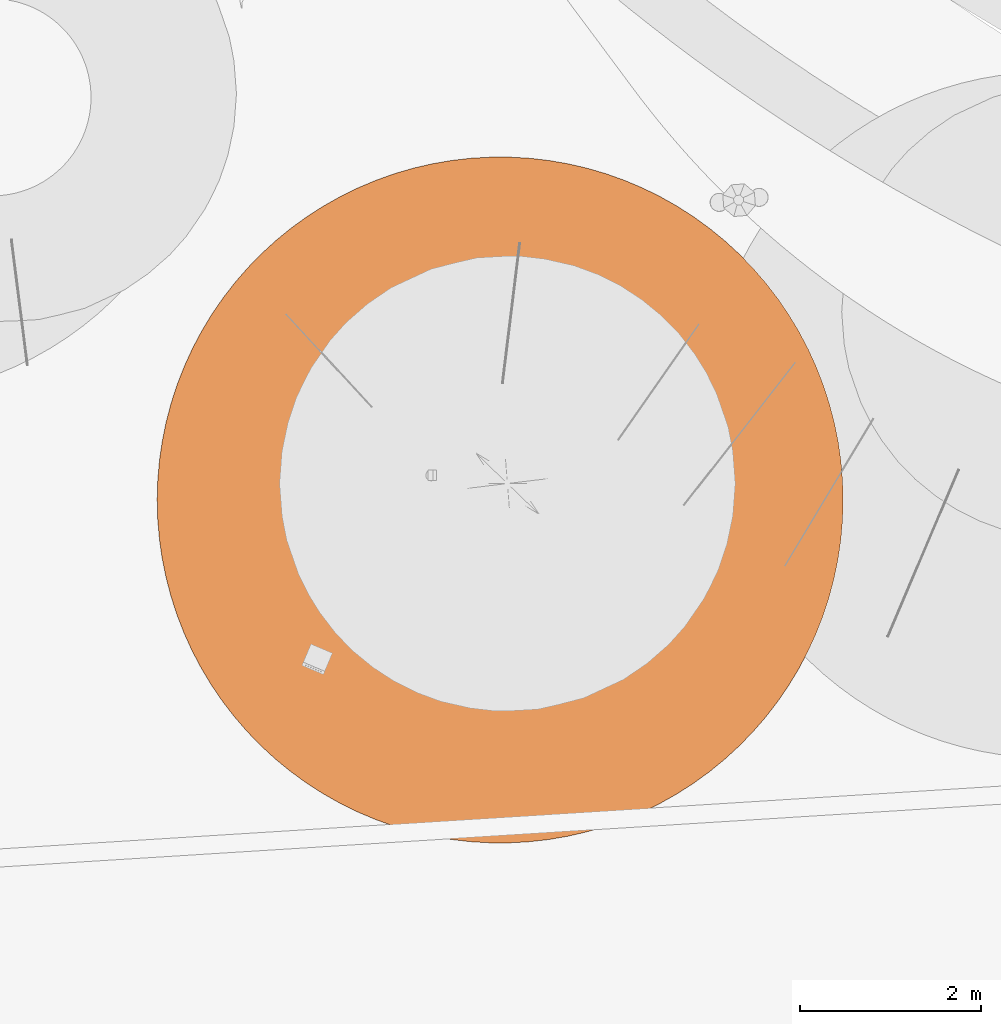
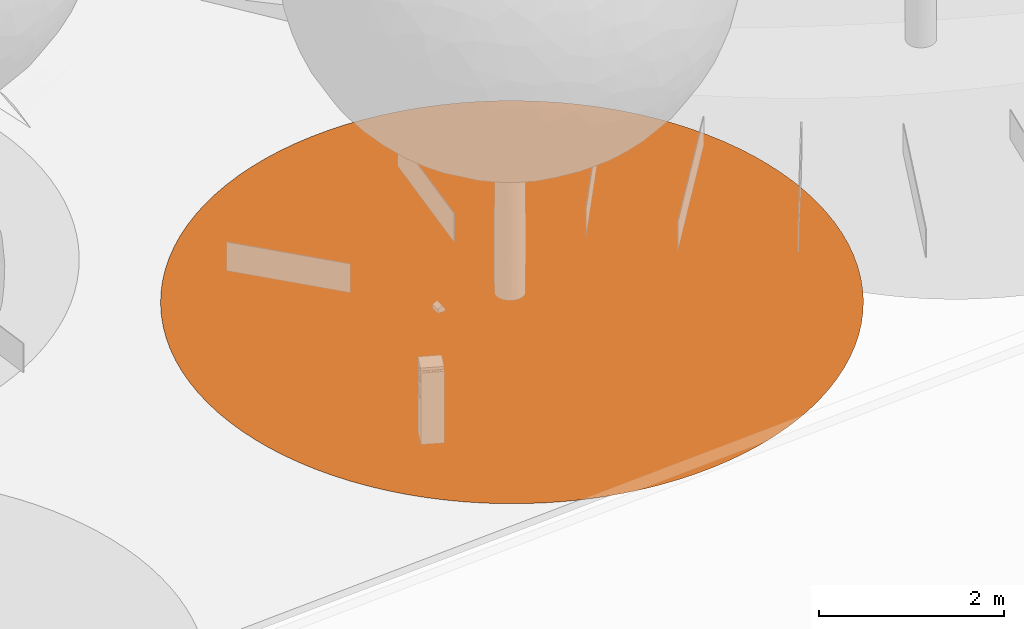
# One storey, part 63 of 75: 1 proxy.
"""IFC2X3 building model written with IfcOpenShell, lengths in metres."""

from ifc_helpers import new_model, entity, si_unit, converted_unit, derived_unit, direction, frame, origin, place, context, subcontext, project, spatial, face_set, surface_model, source, transform, mapped, material, type_object, type_shapes, element, save


model = new_model("IFC2X3")

# Units and contexts
model_context = context("Model", 3, precision=1e-05, world=origin(), true_north=direction((6.123031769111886e-17, 1.0)))
body_context = subcontext(model_context, "Body", "Model", "MODEL_VIEW")
ifc_project = project(units=[si_unit("LENGTHUNIT", "METRE"), si_unit("AREAUNIT", "SQUARE_METRE"), si_unit("VOLUMEUNIT", "CUBIC_METRE"), converted_unit("PLANEANGLEUNIT", "DEGREE", entity("IfcRatioMeasure", 0.017453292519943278), si_unit("PLANEANGLEUNIT", "RADIAN"), dimensions=[0, 0, 0, 0, 0, 0, 0]), si_unit("MASSUNIT", "GRAM", prefix="KILO"), derived_unit("MASSDENSITYUNIT", [(si_unit("MASSUNIT", "GRAM", prefix="KILO"), 1), (si_unit("LENGTHUNIT", "METRE"), -3)]), derived_unit("IONCONCENTRATIONUNIT", [(si_unit("MASSUNIT", "GRAM", prefix="KILO"), 1), (si_unit("LENGTHUNIT", "METRE"), -3)]), derived_unit("MOMENTOFINERTIAUNIT", [(si_unit("LENGTHUNIT", "METRE"), 4)]), si_unit("TIMEUNIT", "SECOND"), si_unit("FREQUENCYUNIT", "HERTZ"), si_unit("THERMODYNAMICTEMPERATUREUNIT", "DEGREE_CELSIUS"), derived_unit("THERMALTRANSMITTANCEUNIT", [(si_unit("MASSUNIT", "GRAM", prefix="KILO"), 1), (si_unit("THERMODYNAMICTEMPERATUREUNIT", "KELVIN"), -1), (si_unit("TIMEUNIT", "SECOND"), -3)]), derived_unit("THERMALCONDUCTANCEUNIT", [(si_unit("MASSUNIT", "GRAM", prefix="KILO"), 1), (si_unit("THERMODYNAMICTEMPERATUREUNIT", "KELVIN"), -1), (si_unit("TIMEUNIT", "SECOND"), -3), (si_unit("LENGTHUNIT", "METRE"), 1)]), derived_unit("VOLUMETRICFLOWRATEUNIT", [(si_unit("LENGTHUNIT", "METRE"), 3), (si_unit("TIMEUNIT", "SECOND"), -1)]), derived_unit("MASSFLOWRATEUNIT", [(si_unit("MASSUNIT", "GRAM", prefix="KILO"), 1), (si_unit("TIMEUNIT", "SECOND"), -1)]), derived_unit("ROTATIONALFREQUENCYUNIT", [(si_unit("TIMEUNIT", "SECOND"), -1)]), si_unit("ELECTRICCURRENTUNIT", "AMPERE"), si_unit("ELECTRICVOLTAGEUNIT", "VOLT"), si_unit("POWERUNIT", "WATT"), si_unit("FORCEUNIT", "NEWTON", prefix="KILO"), si_unit("ILLUMINANCEUNIT", "LUX"), si_unit("LUMINOUSFLUXUNIT", "LUMEN"), si_unit("LUMINOUSINTENSITYUNIT", "CANDELA"), derived_unit("USERDEFINED", [(si_unit("MASSUNIT", "GRAM", prefix="KILO"), -1), (si_unit("LENGTHUNIT", "METRE"), -2), (si_unit("TIMEUNIT", "SECOND"), 3), (si_unit("LUMINOUSFLUXUNIT", "LUMEN"), 1)]), derived_unit("USERDEFINED", [(si_unit("MASSUNIT", "GRAM", prefix="KILO"), 1), (si_unit("TIMEUNIT", "SECOND"), -3), (si_unit("LENGTHUNIT", "METRE"), 3), (si_unit("ELECTRICCURRENTUNIT", "AMPERE"), -2)]), derived_unit("SOUNDPOWERUNIT", [(si_unit("MASSUNIT", "GRAM", prefix="KILO"), 1), (si_unit("TIMEUNIT", "SECOND"), -3), (si_unit("LENGTHUNIT", "METRE"), 2)]), derived_unit("SOUNDPRESSUREUNIT", [(si_unit("MASSUNIT", "GRAM", prefix="KILO"), 1), (si_unit("LENGTHUNIT", "METRE"), -1), (si_unit("TIMEUNIT", "SECOND"), -2)]), derived_unit("LINEARVELOCITYUNIT", [(si_unit("LENGTHUNIT", "METRE"), 1), (si_unit("TIMEUNIT", "SECOND"), -1)]), si_unit("PRESSUREUNIT", "PASCAL"), derived_unit("USERDEFINED", [(si_unit("MASSUNIT", "GRAM", prefix="KILO"), 1), (si_unit("LENGTHUNIT", "METRE"), -2), (si_unit("TIMEUNIT", "SECOND"), -2)]), derived_unit("LINEARFORCEUNIT", [(si_unit("MASSUNIT", "GRAM", prefix="KILO"), 1), (si_unit("TIMEUNIT", "SECOND"), -2)]), derived_unit("PLANARFORCEUNIT", [(si_unit("MASSUNIT", "GRAM", prefix="KILO"), 1), (si_unit("LENGTHUNIT", "METRE"), -1), (si_unit("TIMEUNIT", "SECOND"), -2)]), derived_unit("SPECIFICHEATCAPACITYUNIT", [(si_unit("THERMODYNAMICTEMPERATUREUNIT", "KELVIN"), -1), (si_unit("LENGTHUNIT", "METRE"), 2), (si_unit("TIMEUNIT", "SECOND"), -2)]), derived_unit("HEATINGVALUEUNIT", [(si_unit("LENGTHUNIT", "METRE"), 2), (si_unit("TIMEUNIT", "SECOND"), -2)]), derived_unit("VAPORPERMEABILITYUNIT", [(si_unit("LENGTHUNIT", "METRE"), -1), (si_unit("TIMEUNIT", "SECOND"), 1)]), derived_unit("DYNAMICVISCOSITYUNIT", [(si_unit("MASSUNIT", "GRAM", prefix="KILO"), 1), (si_unit("TIMEUNIT", "SECOND"), -1), (si_unit("LENGTHUNIT", "METRE"), -1)]), derived_unit("THERMALEXPANSIONCOEFFICIENTUNIT", [(si_unit("THERMODYNAMICTEMPERATUREUNIT", "KELVIN"), -1)]), derived_unit("MODULUSOFELASTICITYUNIT", [(si_unit("MASSUNIT", "GRAM", prefix="KILO"), 1), (si_unit("LENGTHUNIT", "METRE"), -1), (si_unit("TIMEUNIT", "SECOND"), -2)]), derived_unit("ISOTHERMALMOISTURECAPACITYUNIT", [(si_unit("LENGTHUNIT", "METRE"), 3), (si_unit("MASSUNIT", "GRAM", prefix="KILO"), -1)]), derived_unit("MOISTUREDIFFUSIVITYUNIT", [(si_unit("TIMEUNIT", "SECOND"), -1), (si_unit("LENGTHUNIT", "METRE"), 2)])], contexts=[model_context])

# Site, building, storey
site_placement = place(None, origin())
site = spatial("IfcSite", under=ifc_project, at=site_placement, Name="Default", CompositionType="ELEMENT")
building_placement = place(site_placement, origin())
building = spatial("IfcBuilding", under=site, at=building_placement, Name="Projeto", CompositionType="ELEMENT")
storey_placement = place(building_placement, origin())
storey = spatial("IfcBuildingStorey", under=building, at=storey_placement, Name="Nível 1", CompositionType="ELEMENT", Elevation=0.0)

# Proxy
ifc_material = material(Name="<Unnamed>")
building_element_proxy_type = type_object("IfcBuildingElementProxyType", Name="Arvore simplificada:Arvore simplificada", PredefinedType="NOTDEFINED", material=ifc_material)
shared_shape = source(origin(), body_context, "Body", "SurfaceModel", [
    surface_model("IfcFaceBasedSurfaceModel", [(-3.9544974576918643, -0.18317979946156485, 0.0), (-3.9483138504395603, -0.3996342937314, 0.0), (-3.929783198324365, -0.6153827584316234, 0.0), (-3.8989659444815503, -0.8297214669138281, 0.0), (-3.855962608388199, -1.0419512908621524, 0.0), (-3.8009134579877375, -1.2513799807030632, 0.0), (-3.733998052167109, -1.4573244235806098, 0.0), (-3.655434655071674, -1.6591128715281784, 0.0), (-3.5654795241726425, -1.8560871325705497, 0.0), (-3.4644260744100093, -2.0476047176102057, 0.0), (-3.3526039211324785, -2.2330409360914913, 0.0), (-3.2303778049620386, -2.411790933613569, 0.0), (-3.098146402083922, -2.583271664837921, 0.0), (-2.9563410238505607, -2.7469237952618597, 0.0), (-2.8054242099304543, -2.9022135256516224, 0.0), (-2.6458882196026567, -3.048634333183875, 0.0), (-2.4782534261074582, -3.1857086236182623, 0.0), (-2.3030666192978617, -3.3129892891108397, 0.0), (-2.12089922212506, -3.430061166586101, 0.0), (-1.93234542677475, -3.5365423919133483, 0.0), (-1.7380202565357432, -3.632085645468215, 0.0), (-1.5385575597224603, -3.7163792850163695, 0.0), (-1.3346079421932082, -3.789148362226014, 0.0), (-1.1268366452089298, -3.8501555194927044, 0.0), (-0.9159213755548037, -3.8992017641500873, 0.0), (-0.7025500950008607, -3.9361271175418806, 0.0), (-0.48741877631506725, -3.9608111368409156, 0.0), (-0.2712291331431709, -3.9731733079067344, 0.0), (-0.054686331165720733, -3.9731733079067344, 0.0), (0.16150331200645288, -3.9608111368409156, 0.0), (0.3766346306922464, -3.9361271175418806, 0.0), (0.5900059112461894, -3.8992017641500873, 0.0), (0.8009211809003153, -3.8501555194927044, 0.0), (1.0086924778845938, -3.789148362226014, 0.0), (1.212642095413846, -3.7163792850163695, 0.0), (1.4121047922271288, -3.632085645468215, 0.0), (1.6064299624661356, -3.5365423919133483, 0.0), (1.7949837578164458, -3.430061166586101, 0.0), (1.9771511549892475, -3.3129892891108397, 0.0), (2.152337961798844, -3.1857086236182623, 0.0), (2.3199727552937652, -3.048634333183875, 0.0), (2.479508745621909, -2.9022135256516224, 0.0), (2.6304255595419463, -2.7469237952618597, 0.0), (2.7722309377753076, -2.583271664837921, 0.0), (2.9044623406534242, -2.411790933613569, 0.0), (3.026688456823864, -2.2330409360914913, 0.0), (3.138510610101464, -2.0476047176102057, 0.0), (3.239564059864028, -1.8560871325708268, 0.0), (3.3295191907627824, -1.6591128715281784, 0.0), (3.4080825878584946, -1.4573244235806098, 0.0), (3.474997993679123, -1.2513799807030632, 0.0), (3.5300471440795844, -1.0419512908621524, 0.0), (3.573050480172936, -0.8297214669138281, 0.0), (3.6038677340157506, -0.6153827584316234, 0.0), (3.622398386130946, -0.3996342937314, 0.0), (3.62858199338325, -0.18317979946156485, 0.0), (3.622398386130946, 0.03327469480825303, 0.0), (3.6038677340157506, 0.24902315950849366, 0.0), (3.573050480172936, 0.4633618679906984, 0.0), (3.5300471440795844, 0.6755916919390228, 0.0), (3.474997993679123, 0.8850203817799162, 0.0), (3.4080825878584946, 1.0909648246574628, 0.0), (3.3295191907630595, 1.2927532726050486, 0.0), (3.239564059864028, 1.4897275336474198, 0.0), (3.138510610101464, 1.6812451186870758, 0.0), (3.026688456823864, 1.8666813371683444, 0.0), (2.9044623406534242, 2.0454313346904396, 0.0), (2.7722309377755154, 2.2169120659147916, 0.0), (2.6304255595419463, 2.38056419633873, 0.0), (2.479508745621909, 2.535853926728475, 0.0), (2.3199727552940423, 2.682274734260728, 0.0), (2.152337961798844, 2.819349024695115, 0.0), (1.9771511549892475, 2.946629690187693, 0.0), (1.7949837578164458, 3.063701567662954, 0.0), (1.6064299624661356, 3.1701827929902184, 0.0), (1.4121047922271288, 3.265726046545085, 0.0), (1.212642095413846, 3.3500196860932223, 0.0), (1.0086924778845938, 3.422788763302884, 0.0), (0.8009211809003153, 3.4837959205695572, 0.0), (0.5900059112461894, 3.5328421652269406, 0.0), (0.3766346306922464, 3.5697675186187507, 0.0), (0.16150331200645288, 3.5944515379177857, 0.0), (-0.05468633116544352, 3.606813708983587, 0.0), (-0.27122913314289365, 3.606813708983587, 0.0), (-0.48741877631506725, 3.5944515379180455, 0.0), (-0.7025500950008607, 3.5697675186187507, 0.0), (-0.9159213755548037, 3.5328421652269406, 0.0), (-1.1268366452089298, 3.4837959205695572, 0.0), (-1.3346079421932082, 3.422788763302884, 0.0), (-1.5385575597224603, 3.3500196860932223, 0.0), (-1.7380202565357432, 3.265726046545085, 0.0), (-1.93234542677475, 3.1701827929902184, 0.0), (-2.12089922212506, 3.063701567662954, 0.0), (-2.3030666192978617, 2.946629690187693, 0.0), (-2.4782534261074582, 2.819349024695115, 0.0), (-2.6458882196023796, 2.682274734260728, 0.0), (-2.8054242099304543, 2.535853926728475, 0.0), (-2.9563410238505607, 2.38056419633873, 0.0), (-3.098146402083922, 2.2169120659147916, 0.0), (-3.2303778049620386, 2.0454313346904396, 0.0), (-3.3526039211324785, 1.8666813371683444, 0.0), (-3.4644260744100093, 1.6812451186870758, 0.0), (-3.5654795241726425, 1.4897275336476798, 0.0), (-3.6554346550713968, 1.2927532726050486, 0.0), (-3.733998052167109, 1.0909648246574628, 0.0), (-3.8009134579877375, 0.8850203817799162, 0.0), (-3.855962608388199, 0.6755916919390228, 0.0), (-3.8989659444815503, 0.4633618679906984, 0.0), (-3.929783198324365, 0.24902315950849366, 0.0), (-3.9483138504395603, 0.03327469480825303, 0.0)], [face_set([[[0, 1, 2, 3, 4, 5, 6, 7, 8, 9, 10, 11, 12, 13, 14, 15, 16, 17, 18, 19, 20, 21, 22, 23, 24, 25, 26, 27, 28, 29, 30, 31, 32, 33, 34, 35, 36, 37, 38, 39, 40, 41, 42, 43, 44, 45, 46, 47, 48, 49, 50, 51, 52, 53, 54, 55, 56, 57, 58, 59, 60, 61, 62, 63, 64, 65, 66, 67, 68, 69, 70, 71, 72, 73, 74, 75, 76, 77, 78, 79, 80, 81, 82, 83, 84, 85, 86, 87, 88, 89, 90, 91, 92, 93, 94, 95, 96, 97, 98, 99, 100, 101, 102, 103, 104, 105, 106, 107, 108, 109]]])]),
])
type_shapes(building_element_proxy_type, [shared_shape])
proxy_placement = place(storey_placement, frame((-10.753920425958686, -16.11154240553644, 0.0), z_axis=(0.0, 0.0, 1.0), x_axis=(0.9422539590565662, 0.3348992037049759, 0.0)))
element("IfcBuildingElementProxy", 1, at=proxy_placement, inside=storey, type_object=building_element_proxy_type, material=ifc_material, Name="Arvore simplificada:Arvore simplificada", ObjectType="Arvore simplificada:Arvore simplificada", context=body_context, shape_type="MappedRepresentation", body=[
    mapped(shared_shape, transform((0.0, 0.0, 0.0), scale=1.0)),
])

save(model, "model.ifc")
